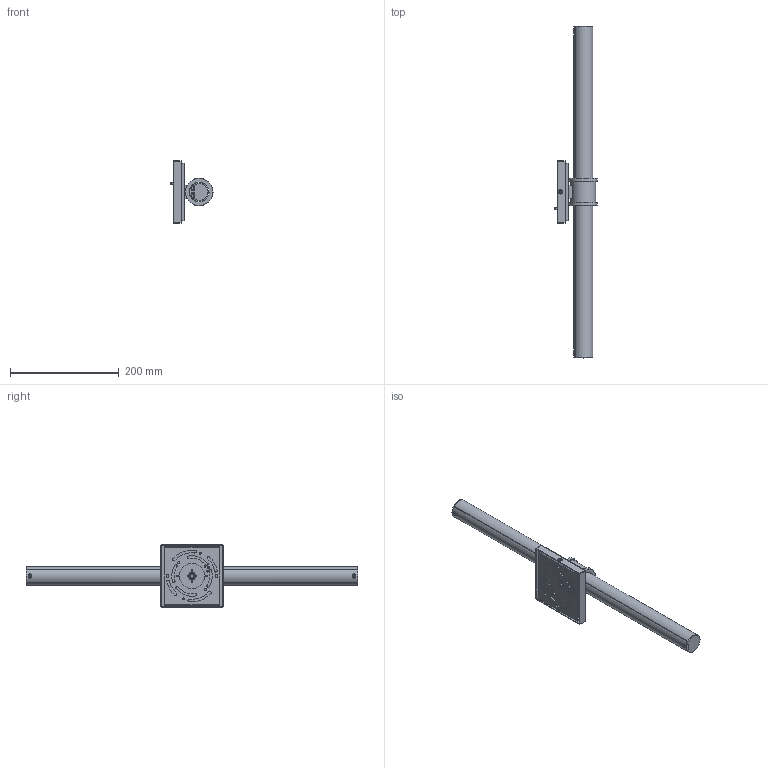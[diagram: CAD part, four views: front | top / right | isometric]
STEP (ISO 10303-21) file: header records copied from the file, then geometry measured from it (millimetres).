
FILE_DESCRIPTION(/* description */ (''),/* implementation_level */ '2;1');
FILE_NAME(/* name */ 'ws1024-e0_asm.step',/* time_stamp */ '2023-11-24T14:43:52+08:00',/* author */ (''),/* organization */ (''),/* preprocessor_version */ 'ST-DEVELOPER v20',/* originating_system */ 'Autodesk Translation Framework v12.14.0.127',/* authorisation */ '');
FILE_SCHEMA (('AUTOMOTIVE_DESIGN { 1 0 10303 214 3 1 1 }'));
Length unit declared in the file: millimetre
Products named in the file (17): ws1024-e0_asm; WS1024-04; WS1024-03; WS1024-07; WS1024-08; WS1024-01; WS1024-02; WS1024-E1_ASM; WS1024-05; WS1024-06; WSW48709-09; 23_5IN-3000K; 7MPF0408S2; WS76608-12; 7MPM0904C1; 7MPF0306S1; 7MPF0406C7
Assembly tree (19 placements, depth 3):
  ws1024-e0_asm
    WS1024-04
    WS1024-03
    WS1024-07
    WS1024-08
    WS1024-01
    WS1024-02
    WS1024-E1_ASM  x2
      WS1024-05
      WS1024-06
    WSW48709-09
    23_5IN-3000K
    7MPF0408S2  x2
    WS76608-12
    7MPM0904C1
    7MPF0306S1  x2
    7MPF0406C7
Bounding box: 77.31 x 611 x 115 mm (x, y, z)
Volume: 322699.5 mm3; surface area: 295764.8 mm2
Topology: 19 solids, 19 shells, 937 faces, 2345 edges, 1536 vertices
Faces by surface type: plane 698, cylinder 134, bspline 44, cone 44, torus 9, sphere 8
Full cylindrical faces by diameter (mm): 2.1 x4, 2.6 x8, 2.8 x4, 3 x2, 3.175 x2, 3.3 x2, 3.5 x4, 3.6 x7, 4 x6, 4.166 x1, 5 x4, 5.5 x2, 6 x1, 6.3 x2, 6.4 x2, 7 x1, 9.2 x3, 10 x2, 35 x2, 36 x1, 46 x2, 51 x2
Entity records: 27824 total; most frequent: CARTESIAN_POINT 6465, ORIENTED_EDGE 4308, DIRECTION 4101, EDGE_CURVE 2154, LINE 1673, VECTOR 1673, VERTEX_POINT 1412, AXIS2_PLACEMENT_3D 1214
